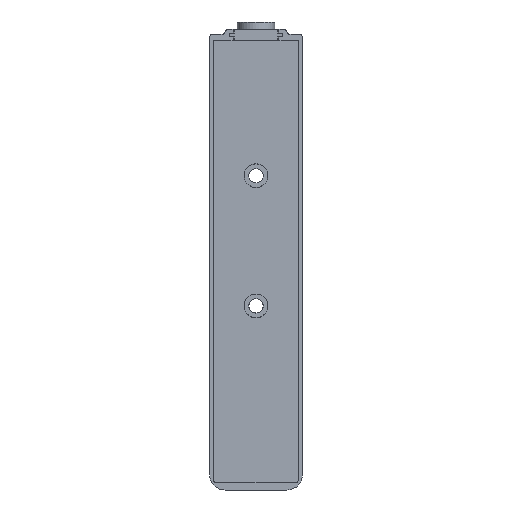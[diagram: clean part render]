
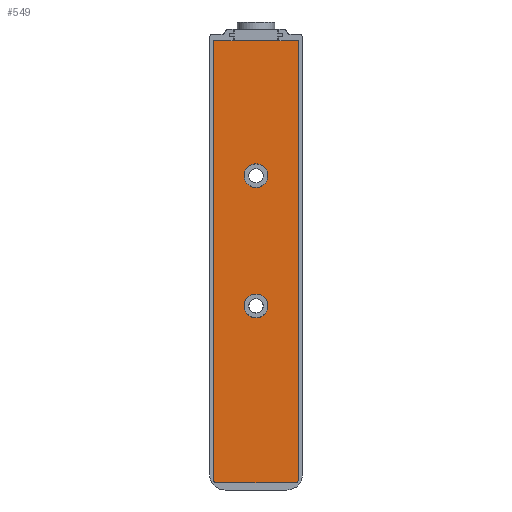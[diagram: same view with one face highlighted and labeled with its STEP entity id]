
A CAD part, left-side view. The second image highlights one B-rep face of the part: STEP entity #549.
In plain terms, the highlighted planar face has unit normal (-1, 0, 0).
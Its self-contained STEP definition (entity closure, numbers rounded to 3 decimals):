
#362=CARTESIAN_POINT('',(2.,-12.665,-99.1));
#363=VERTEX_POINT('',#362);
#364=CARTESIAN_POINT('',(2.,-13.665,-98.1));
#365=VERTEX_POINT('',#364);
#366=CARTESIAN_POINT('',(2.,-12.665,-98.1));
#367=DIRECTION('',(-1.0,0.0,0.0));
#368=DIRECTION('',(0.0,-1.0,0.0));
#369=AXIS2_PLACEMENT_3D('',#366,#367,#368);
#370=ELLIPSE('',#369,1.,1.0);
#371=EDGE_CURVE('',#363,#365,#370,.T.);
#405=CARTESIAN_POINT('',(2.,12.665,-99.1));
#406=VERTEX_POINT('',#405);
#407=CARTESIAN_POINT('',(2.,12.665,-99.1));
#408=DIRECTION('',(0.0,-1.0,0.0));
#409=VECTOR('',#408,25.331);
#410=LINE('',#407,#409);
#411=EDGE_CURVE('',#406,#363,#410,.T.);
#435=CARTESIAN_POINT('',(2.,13.665,-98.1));
#436=VERTEX_POINT('',#435);
#437=CARTESIAN_POINT('',(2.,12.665,-98.1));
#438=DIRECTION('',(-1.0,0.0,0.0));
#439=DIRECTION('',(0.0,1.0,0.));
#440=AXIS2_PLACEMENT_3D('',#437,#438,#439);
#441=ELLIPSE('',#440,1.,1.0);
#442=EDGE_CURVE('',#436,#406,#441,.T.);
#463=CARTESIAN_POINT('',(2.,0.069,-40.193));
#464=DIRECTION('',(1.0,0.0,0.0));
#465=DIRECTION('',(0.0,0.0,-1.0));
#466=AXIS2_PLACEMENT_3D('',#463,#464,#465);
#467=PLANE('',#466);
#468=ORIENTED_EDGE('',*,*,#371,.T.);
#469=CARTESIAN_POINT('',(2.,-13.665,43.6));
#470=VERTEX_POINT('',#469);
#471=CARTESIAN_POINT('',(2.,-13.665,43.6));
#472=DIRECTION('',(0.0,0.0,-1.0));
#473=VECTOR('',#472,141.7);
#474=LINE('',#471,#473);
#475=EDGE_CURVE('',#470,#365,#474,.T.);
#476=ORIENTED_EDGE('',*,*,#475,.F.);
#477=CARTESIAN_POINT('',(2.,-7.356,43.6));
#478=VERTEX_POINT('',#477);
#479=CARTESIAN_POINT('',(2.,-7.356,43.6));
#480=DIRECTION('',(0.0,-1.0,0.0));
#481=VECTOR('',#480,6.31);
#482=LINE('',#479,#481);
#483=EDGE_CURVE('',#478,#470,#482,.T.);
#484=ORIENTED_EDGE('',*,*,#483,.F.);
#485=CARTESIAN_POINT('',(2.,-7.356,43.922));
#486=VERTEX_POINT('',#485);
#487=CARTESIAN_POINT('',(2.,-7.356,43.922));
#488=DIRECTION('',(0.0,0.0,-1.0));
#489=VECTOR('',#488,0.322);
#490=LINE('',#487,#489);
#491=EDGE_CURVE('',#486,#478,#490,.T.);
#492=ORIENTED_EDGE('',*,*,#491,.F.);
#493=CARTESIAN_POINT('',(2.,7.356,43.922));
#494=VERTEX_POINT('',#493);
#495=CARTESIAN_POINT('',(2.,7.356,43.922));
#496=DIRECTION('',(0.0,-1.0,0.0));
#497=VECTOR('',#496,14.712);
#498=LINE('',#495,#497);
#499=EDGE_CURVE('',#494,#486,#498,.T.);
#500=ORIENTED_EDGE('',*,*,#499,.F.);
#501=CARTESIAN_POINT('',(2.,7.356,43.6));
#502=VERTEX_POINT('',#501);
#503=CARTESIAN_POINT('',(2.,7.356,43.6));
#504=DIRECTION('',(0.0,0.0,1.0));
#505=VECTOR('',#504,0.322);
#506=LINE('',#503,#505);
#507=EDGE_CURVE('',#502,#494,#506,.T.);
#508=ORIENTED_EDGE('',*,*,#507,.F.);
#509=CARTESIAN_POINT('',(2.,13.665,43.6));
#510=VERTEX_POINT('',#509);
#511=CARTESIAN_POINT('',(2.,13.665,43.6));
#512=DIRECTION('',(0.0,-1.0,0.0));
#513=VECTOR('',#512,6.31);
#514=LINE('',#511,#513);
#515=EDGE_CURVE('',#510,#502,#514,.T.);
#516=ORIENTED_EDGE('',*,*,#515,.F.);
#517=CARTESIAN_POINT('',(2.,13.665,-98.1));
#518=DIRECTION('',(0.0,0.0,1.0));
#519=VECTOR('',#518,141.7);
#520=LINE('',#517,#519);
#521=EDGE_CURVE('',#436,#510,#520,.T.);
#522=ORIENTED_EDGE('',*,*,#521,.F.);
#523=ORIENTED_EDGE('',*,*,#442,.T.);
#524=ORIENTED_EDGE('',*,*,#411,.T.);
#525=EDGE_LOOP('',(#468,#476,#484,#492,#500,#508,#516,#522,#523,#524));
#526=FACE_OUTER_BOUND('',#525,.T.);
#527=CARTESIAN_POINT('',(2.,0.,3.835));
#528=VERTEX_POINT('',#527);
#529=CARTESIAN_POINT('',(2.,0.,0.));
#530=DIRECTION('',(-1.0,0.0,0.0));
#531=DIRECTION('',(0.0,0.0,-1.0));
#532=AXIS2_PLACEMENT_3D('',#529,#530,#531);
#533=CIRCLE('',#532,3.835);
#534=EDGE_CURVE('',#528,#528,#533,.T.);
#535=ORIENTED_EDGE('',*,*,#534,.F.);
#536=EDGE_LOOP('',(#535));
#537=FACE_BOUND('',#536,.T.);
#538=CARTESIAN_POINT('',(2.,3.835,-42.));
#539=VERTEX_POINT('',#538);
#540=CARTESIAN_POINT('',(2.,0.,-42.));
#541=DIRECTION('',(-1.0,0.0,0.0));
#542=DIRECTION('',(0.0,-1.0,0.0));
#543=AXIS2_PLACEMENT_3D('',#540,#541,#542);
#544=CIRCLE('',#543,3.835);
#545=EDGE_CURVE('',#539,#539,#544,.T.);
#546=ORIENTED_EDGE('',*,*,#545,.F.);
#547=EDGE_LOOP('',(#546));
#548=FACE_BOUND('',#547,.T.);
#549=ADVANCED_FACE('',(#526,#537,#548),#467,.F.);
